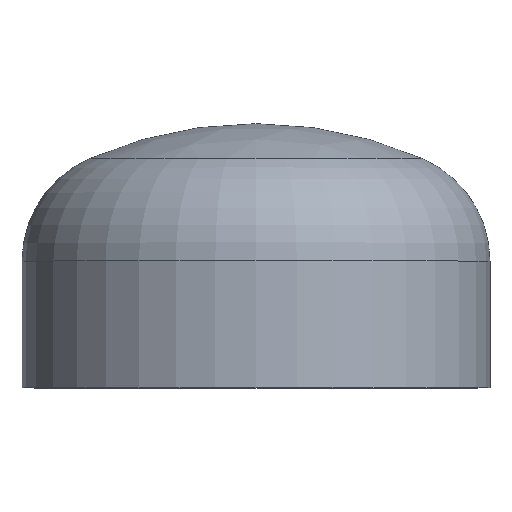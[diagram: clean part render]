
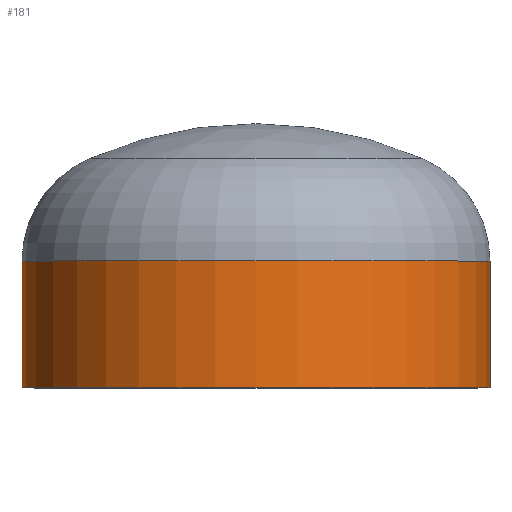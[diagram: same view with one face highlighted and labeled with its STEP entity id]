
A CAD part, top view. The second image highlights one B-rep face of the part: STEP entity #181.
In plain terms, the highlighted cylindrical face has radius 203.2 mm (diameter 406.4 mm), a partial arc.
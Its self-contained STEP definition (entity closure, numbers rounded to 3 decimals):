
#3 = AXIS2_PLACEMENT_3D ( 'NONE', #161, #167, #217 ) ;
#24 = CARTESIAN_POINT ( 'NONE',  ( -203.2, 110., 0. ) ) ;
#25 = FACE_OUTER_BOUND ( 'NONE', #94, .T. ) ;
#29 = ORIENTED_EDGE ( 'NONE', *, *, #37, .F. ) ;
#36 = EDGE_CURVE ( 'NONE', #271, #79, #82, .T. ) ;
#37 = EDGE_CURVE ( 'NONE', #265, #54, #311, .T. ) ;
#54 = VERTEX_POINT ( 'NONE', #305 ) ;
#56 = CARTESIAN_POINT ( 'NONE',  ( 0., 110., 0. ) ) ;
#62 = DIRECTION ( 'NONE',  ( 0., -1., 0. ) ) ;
#72 = DIRECTION ( 'NONE',  ( 0., -1., 0. ) ) ;
#79 = VERTEX_POINT ( 'NONE', #273 ) ;
#82 = LINE ( 'NONE', #390, #382 ) ;
#83 = DIRECTION ( 'NONE',  ( 1., 0., 0. ) ) ;
#94 = EDGE_LOOP ( 'NONE', ( #251, #236, #404, #29 ) ) ;
#161 = CARTESIAN_POINT ( 'NONE',  ( 0., 0., 0. ) ) ;
#167 = DIRECTION ( 'NONE',  ( 0., -1., 0. ) ) ;
#181 = ADVANCED_FACE ( 'NONE', ( #25 ), #262, .T. ) ;
#189 = DIRECTION ( 'NONE',  ( 0., -1., 0. ) ) ;
#190 = CIRCLE ( 'NONE', #3, 203.2 ) ;
#193 = EDGE_CURVE ( 'NONE', #54, #79, #190, .T. ) ;
#194 = CARTESIAN_POINT ( 'NONE',  ( 203.2, 110., 0. ) ) ;
#204 = CARTESIAN_POINT ( 'NONE',  ( 203.2, 0., 0. ) ) ;
#214 = AXIS2_PLACEMENT_3D ( 'NONE', #247, #72, #317 ) ;
#217 = DIRECTION ( 'NONE',  ( 1., 0., 0. ) ) ;
#221 = VECTOR ( 'NONE', #330, 1000. ) ;
#236 = ORIENTED_EDGE ( 'NONE', *, *, #36, .T. ) ;
#247 = CARTESIAN_POINT ( 'NONE',  ( 0., 0., 0. ) ) ;
#251 = ORIENTED_EDGE ( 'NONE', *, *, #272, .T. ) ;
#262 = CYLINDRICAL_SURFACE ( 'NONE', #214, 203.2 ) ;
#265 = VERTEX_POINT ( 'NONE', #194 ) ;
#271 = VERTEX_POINT ( 'NONE', #24 ) ;
#272 = EDGE_CURVE ( 'NONE', #265, #271, #399, .T. ) ;
#273 = CARTESIAN_POINT ( 'NONE',  ( -203.2, 0., 0. ) ) ;
#305 = CARTESIAN_POINT ( 'NONE',  ( 203.2, 0., 0. ) ) ;
#311 = LINE ( 'NONE', #204, #221 ) ;
#317 = DIRECTION ( 'NONE',  ( 1., 0., 0. ) ) ;
#330 = DIRECTION ( 'NONE',  ( 0., -1., 0. ) ) ;
#382 = VECTOR ( 'NONE', #189, 1000. ) ;
#390 = CARTESIAN_POINT ( 'NONE',  ( -203.2, 0., 0. ) ) ;
#399 = CIRCLE ( 'NONE', #402, 203.2 ) ;
#402 = AXIS2_PLACEMENT_3D ( 'NONE', #56, #62, #83 ) ;
#404 = ORIENTED_EDGE ( 'NONE', *, *, #193, .F. ) ;
